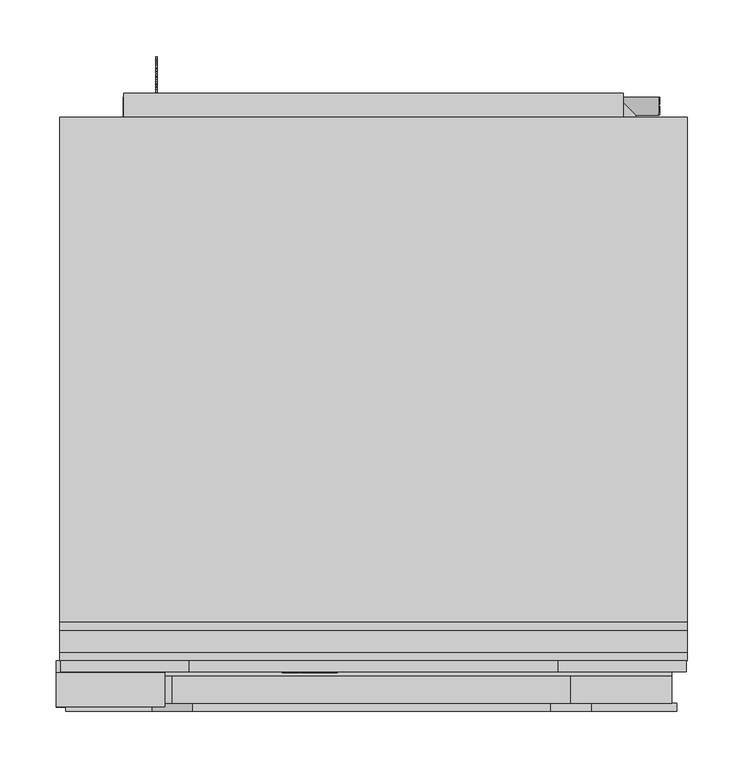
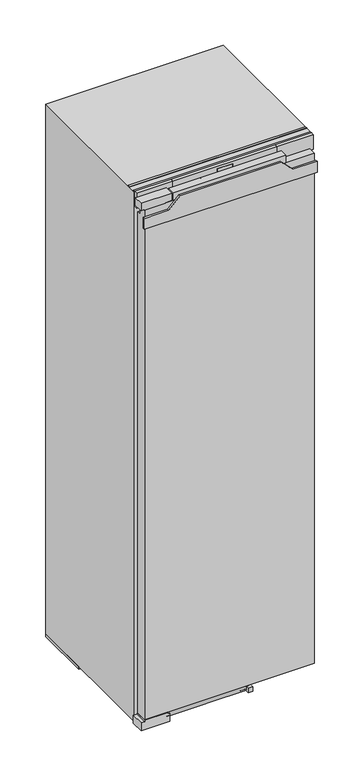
"""IFC4 building model written with IfcOpenShell, lengths in millimetres: proxy geometry, 11911910_USA_FNS7794E : 37779400_USA_11911910_FNS7794E."""

import ifcopenshell
import ifcopenshell.guid

model = None  # the IFC model being written
_history = None  # IfcOwnerHistory: only IFC2X3 demands one
_inside = {}  # id of a spatial element -> (the spatial element, [elements in it])
_under = {}  # id of a project, library or spatial element -> (it, [spatial elements below it])
_declared = {}  # id of a project -> (the project, [libraries it declares])
_typed = {}  # id of a type object -> (the type object, [elements of that type])
_made_of = {}  # id of a material, layer set ... -> (it, [elements and type objects made of it])


def new_model(schema):
    """Start an empty IFC model of exactly this schema.

    Asked for "IFC4X3", IfcOpenShell would pick the latest addendum, in which some entities
    have other attributes; the version numbers below select the first issue.
    IFC2X3 requires an IfcOwnerHistory on every rooted entity: one is made here for all.
    """
    global model, _history
    if schema == "IFC4X3":
        model = ifcopenshell.file(schema_version=(4, 3, 0, 0))
    else:
        model = ifcopenshell.file(schema=schema)
    _inside.clear()
    _under.clear()
    _declared.clear()
    _typed.clear()
    _made_of.clear()
    _history = None
    if model.schema == "IFC2X3":
        org = make("IfcOrganization", Name="unknown")
        user = make(
            "IfcPersonAndOrganization",
            ThePerson=make("IfcPerson", FamilyName="unknown"),
            TheOrganization=org,
        )
        app = make(
            "IfcApplication",
            ApplicationDeveloper=org,
            Version="unknown",
            ApplicationFullName="unknown",
            ApplicationIdentifier="unknown",
        )
        _history = make(
            "IfcOwnerHistory",
            OwningUser=user,
            OwningApplication=app,
            ChangeAction="ADDED",
            CreationDate=0,
        )
    return model


def make(cls, **values):
    """One entity of the class cls with the attributes given. An attribute that is None is left unset."""
    return model.create_entity(
        cls, **{name: value for name, value in values.items() if value is not None}
    )


def rooted(cls, **values):
    """An entity with a GlobalId (a new one), such as an element, a storey or a relation."""
    return make(cls, GlobalId=ifcopenshell.guid.new(), OwnerHistory=_history, **values)


def si_unit(unit_type, name, prefix=None):
    """IfcSIUnit, for example si_unit("LENGTHUNIT", "METRE", prefix="MILLI")."""
    return make("IfcSIUnit", UnitType=unit_type, Prefix=prefix, Name=name)


def assignment(units):
    """IfcUnitAssignment: the units of a project."""
    return None if units is None else make("IfcUnitAssignment", Units=units)


def point(xyz):
    """IfcCartesianPoint."""
    return None if xyz is None else make("IfcCartesianPoint", Coordinates=xyz)


def direction(xyz):
    """IfcDirection."""
    return None if xyz is None else make("IfcDirection", DirectionRatios=xyz)


def frame(location, z_axis=None, x_axis=None):
    """IfcAxis2Placement3D, a coordinate frame: its origin and axes. An axis left out is left unset."""
    return make(
        "IfcAxis2Placement3D",
        Location=point(location),
        Axis=direction(z_axis),
        RefDirection=direction(x_axis),
    )


def frame_2d(location, x_axis=None):
    """IfcAxis2Placement2D, a coordinate frame in the plane: its origin and x axis."""
    return make(
        "IfcAxis2Placement2D", Location=point(location), RefDirection=direction(x_axis)
    )


def origin():
    """The frame at (0, 0, 0) with its axes left unset."""
    return frame((0.0, 0.0, 0.0))


def origin_with_axes():
    """The frame at (0, 0, 0) with the z axis (0, 0, 1) and the x axis (1, 0, 0) written out."""
    return frame((0.0, 0.0, 0.0), z_axis=(0.0, 0.0, 1.0), x_axis=(1.0, 0.0, 0.0))


def place(relative_to, where):
    """IfcLocalPlacement: puts the frame where relative to a parent placement (None: the world)."""
    return make(
        "IfcLocalPlacement", PlacementRelTo=relative_to, RelativePlacement=where
    )


def context(
    kind, dimensions, precision=None, world=None, true_north=None, identifier=None
):
    """IfcGeometricRepresentationContext, for example the 3D "Model" context."""
    return make(
        "IfcGeometricRepresentationContext",
        ContextIdentifier=identifier,
        ContextType=kind,
        CoordinateSpaceDimension=dimensions,
        Precision=precision,
        WorldCoordinateSystem=world,
        TrueNorth=true_north,
    )


def project(units=None, contexts=None):
    """IfcProject with its units and contexts."""
    return rooted(
        "IfcProject",
        Name="project",
        RepresentationContexts=contexts,
        UnitsInContext=assignment(units),
    )


def spatial(cls, under=None, at=None, **own):
    """A site, building, storey or space (cls), placed at a placement, below another one or the project."""
    s = rooted(cls, ObjectPlacement=at, **own)
    if under is not None:
        _under.setdefault(under.id(), (under, []))[1].append(s)
    return s


def polyline(points):
    """IfcPolyline through the points."""
    return make("IfcPolyline", Points=[point(p) for p in points])


def circle_curve(where, radius):
    """IfcCircle in the frame where."""
    return make("IfcCircle", Position=where, Radius=radius)


def ellipse_curve(where, semi_axis1, semi_axis2):
    """IfcEllipse in the frame where."""
    return make(
        "IfcEllipse", Position=where, SemiAxis1=semi_axis1, SemiAxis2=semi_axis2
    )


def trimmed(basis, trim1, trim2, sense, master):
    """IfcTrimmedCurve: the piece of a basis curve between two trims."""
    return make(
        "IfcTrimmedCurve",
        BasisCurve=basis,
        Trim1=trim1,
        Trim2=trim2,
        SenseAgreement=sense,
        MasterRepresentation=master,
    )


def segment(curve, same_sense, transition):
    """IfcCompositeCurveSegment."""
    return make(
        "IfcCompositeCurveSegment",
        Transition=transition,
        SameSense=same_sense,
        ParentCurve=curve,
    )


def composite_curve(segments, self_intersect=None):
    """IfcCompositeCurve: segments joined end to end."""
    return make("IfcCompositeCurve", Segments=segments, SelfIntersect=self_intersect)


def outline(outer, holes=None, kind="AREA"):
    """IfcArbitraryClosedProfileDef: a profile drawn as a closed curve; with holes, ...WithVoids."""
    if holes is None:
        return make("IfcArbitraryClosedProfileDef", ProfileType=kind, OuterCurve=outer)
    return make(
        "IfcArbitraryProfileDefWithVoids",
        ProfileType=kind,
        OuterCurve=outer,
        InnerCurves=holes,
    )


def extrude(swept, where, along, depth):
    """IfcExtrudedAreaSolid: the profile swept, set in the frame where, extruded along a direction by depth."""
    return make(
        "IfcExtrudedAreaSolid",
        SweptArea=swept,
        Position=where,
        ExtrudedDirection=direction(along),
        Depth=depth,
    )


def faces_of(points, faces, orient=None, outer=None):
    """IfcFace entities. A face is a list of loops; a loop is a list of indices into points, from 0.

    orient and outer hold one flag for each loop. By default every Orientation is true, the
    first loop of a face is its IfcFaceOuterBound and the others are IfcFaceBound.
    """
    made = []
    for i, loops in enumerate(faces):
        bounds = []
        for j, loop in enumerate(loops):
            is_outer = j == 0 if outer is None else outer[i][j]
            bounds.append(
                make(
                    "IfcFaceOuterBound" if is_outer else "IfcFaceBound",
                    Bound=make("IfcPolyLoop", Polygon=[points[k] for k in loop]),
                    Orientation=True if orient is None else orient[i][j],
                )
            )
        made.append(make("IfcFace", Bounds=bounds))
    return made


def faceted_brep(points, faces, orient=None, outer=None, voids=None):
    """IfcFacetedBrep: a solid bounded by flat faces; with voids (closed shells), ...WithVoids."""
    shared = [point(p) for p in points]
    hull = make("IfcClosedShell", CfsFaces=faces_of(shared, faces, orient, outer))
    if voids is None:
        return make("IfcFacetedBrep", Outer=hull)
    return make(
        "IfcFacetedBrepWithVoids",
        Outer=hull,
        Voids=[
            make(cls, CfsFaces=faces_of(shared, fs, o, b)) for cls, fs, o, b in voids
        ],
    )


def shape(context_of_items, identifier, shape_type, items):
    """IfcShapeRepresentation: the items that make up one representation, for example the "Body"."""
    return make(
        "IfcShapeRepresentation",
        ContextOfItems=context_of_items,
        RepresentationIdentifier=identifier,
        RepresentationType=shape_type,
        Items=items,
    )


def source(mapping_origin, context_of_items, identifier, shape_type, items):
    """IfcRepresentationMap: a shape defined once, which mapped items show again and again."""
    return make(
        "IfcRepresentationMap",
        MappingOrigin=mapping_origin,
        MappedRepresentation=shape(context_of_items, identifier, shape_type, items),
    )


def transform(
    local_origin,
    x_axis=None,
    y_axis=None,
    z_axis=None,
    scale=None,
    scale2=None,
    scale3=None,
    uniform=True,
):
    """IfcCartesianTransformationOperator3D, or its non-uniform kind. x_axis, y_axis, z_axis: its Axis1, 2, 3."""
    if uniform:
        return make(
            "IfcCartesianTransformationOperator3D",
            Axis1=direction(x_axis),
            Axis2=direction(y_axis),
            LocalOrigin=point(local_origin),
            Scale=scale,
            Axis3=direction(z_axis),
        )
    return make(
        "IfcCartesianTransformationOperator3DnonUniform",
        Axis1=direction(x_axis),
        Axis2=direction(y_axis),
        LocalOrigin=point(local_origin),
        Scale=scale,
        Axis3=direction(z_axis),
        Scale2=scale2,
        Scale3=scale3,
    )


def mapped(mapping_source, mapping_target):
    """IfcMappedItem: shows the shape of a source again, moved by a transform."""
    return make(
        "IfcMappedItem", MappingSource=mapping_source, MappingTarget=mapping_target
    )


def made_of(thing, what):
    """Note that an element or type object is made of a material, layer set ...; save() writes the relation."""
    if what is not None:
        _made_of.setdefault(what.id(), (what, []))[1].append(thing)
    return thing


def element(
    cls,
    number,
    at=None,
    inside=None,
    cuts=None,
    type_object=None,
    material=None,
    context=None,
    identifier="Body",
    shape_type=None,
    held_by="IfcProductDefinitionShape",
    body=None,
    shapes=None,
    **own,
):
    """One element of the class cls, such as IfcWall. Its Tag is "e" and its number.

    at: its placement. inside: the storey or other place that contains it. cuts: it is an
    opening in that element (IfcRelVoidsElement). A single representation is given by context,
    identifier, shape_type and body (its items); several are given by shapes. held_by: the class
    of the entity that holds the representations. save() writes the other relations.
    """
    e = rooted(cls, Tag="e%d" % number, ObjectPlacement=at, **own)
    if body is not None:
        shapes = [shape(context, identifier, shape_type, body)]
    if shapes is not None:
        e.Representation = make(held_by, Representations=shapes)
    if inside is not None:
        _inside.setdefault(inside.id(), (inside, []))[1].append(e)
    if cuts is not None:
        rooted(
            "IfcRelVoidsElement", RelatingBuildingElement=cuts, RelatedOpeningElement=e
        )
    if type_object is not None:
        _typed.setdefault(type_object.id(), (type_object, []))[1].append(e)
    return made_of(e, material)


def aggregate(whole, parts):
    """IfcRelAggregates: a whole, such as a stair, and the parts it consists of."""
    return rooted("IfcRelAggregates", RelatingObject=whole, RelatedObjects=parts)


def save(model, path):
    """Write the relations noted so far, then the file.

    IfcRelAggregates (storeys below a building ...), IfcRelContainedInSpatialStructure (elements
    in a storey), IfcRelDefinesByType, IfcRelAssociatesMaterial and IfcRelDeclares: one each for
    every whole, place, type object, material and project.
    """
    for whole, parts in _under.values():
        aggregate(whole, parts)
    for where, things in _inside.values():
        rooted(
            "IfcRelContainedInSpatialStructure",
            RelatedElements=things,
            RelatingStructure=where,
        )
    for kind, things in _typed.values():
        rooted("IfcRelDefinesByType", RelatedObjects=things, RelatingType=kind)
    for what, things in _made_of.values():
        rooted("IfcRelAssociatesMaterial", RelatedObjects=things, RelatingMaterial=what)
    for by, libraries in _declared.values():
        rooted("IfcRelDeclares", RelatingContext=by, RelatedDefinitions=libraries)
    model.write(path)


def plane_surface(at):
    """IfcPlane: the flat surface through the origin of the frame at, square to its z axis."""
    return make("IfcPlane", Position=at)


def cylinder_surface(at, radius):
    """IfcCylindricalSurface: all points at the distance radius from the z axis of the frame at."""
    return make("IfcCylindricalSurface", Position=at, Radius=radius)


def revolved_surface(curve, axis_point, axis_direction):
    """IfcSurfaceOfRevolution: the curve turned about the line through axis_point along axis_direction."""
    return make(
        "IfcSurfaceOfRevolution",
        SweptCurve=make("IfcArbitraryOpenProfileDef", ProfileType="CURVE", Curve=curve),
        AxisPosition=make("IfcAxis1Placement", Location=point(axis_point), Axis=direction(axis_direction)),
    )


def extruded_surface(curve, direction_of_extrusion, depth):
    """IfcSurfaceOfLinearExtrusion: the curve pushed along a direction by depth."""
    return make(
        "IfcSurfaceOfLinearExtrusion",
        SweptCurve=make("IfcArbitraryOpenProfileDef", ProfileType="CURVE", Curve=curve),
        ExtrudedDirection=direction(direction_of_extrusion),
        Depth=depth,
    )


def advanced_brep(points, edges, surfaces, faces):
    """IfcAdvancedBrep: a solid bounded by faces that lie on surfaces and meet in shared edges.

    An edge is (start, end): straight between two places in points (the first is 0);
    or (start, end, curve); or (start, end, curve, False) where it runs against its curve.
    A face is (place in surfaces, loops), or (place, loops, False) where it looks against
    its surface's normal. A loop lists edges by number (the first is 1), with a minus sign
    where the edge is run from its end to its start. The first loop is the outer one.
    """
    corners = [point(p) for p in points]
    vertices = [make("IfcVertexPoint", VertexGeometry=c) for c in corners]
    made = []
    for start, end, *more in edges:
        made.append(
            make(
                "IfcEdgeCurve",
                EdgeStart=vertices[start],
                EdgeEnd=vertices[end],
                EdgeGeometry=more[0] if more else make("IfcPolyline", Points=[corners[start], corners[end]]),
                SameSense=more[1] if len(more) > 1 else True,
            )
        )
    hull = []
    for where, loops, *sense in faces:
        bounds = []
        for j, loop in enumerate(loops):
            ring = [make("IfcOrientedEdge", EdgeElement=made[abs(k) - 1], Orientation=k > 0) for k in loop]
            bounds.append(
                make(
                    "IfcFaceOuterBound" if j == 0 else "IfcFaceBound",
                    Bound=make("IfcEdgeLoop", EdgeList=ring),
                    Orientation=True,
                )
            )
        hull.append(make("IfcAdvancedFace", Bounds=bounds, FaceSurface=surfaces[where], SameSense=sense[0] if sense else True))
    return make("IfcAdvancedBrep", Outer=make("IfcClosedShell", CfsFaces=hull))


def specialty_equipment_5714de7c(model_context):
    return source(origin(), model_context, "Body", "SolidModel", [
        advanced_brep(
        [(-37.4941578, 34.0, 1743.708), (-37.4941578, 34.0, 1744.516), (-32.1421578, 34.0, 1744.516), (-41.4541578, 34.0, 1744.516), (-39.2541578, 34.0, 1741.812), (-32.2781578, 34.0, 1743.708), (-34.6941578, 34.0, 1743.708), (-36.5981578, 34.0, 1742.812), (-37.4941578, 34.0, 1745.54), (-37.4941578, 34.0, 1746.412), (-36.1261578, 34.0, 1746.412), (-36.1261578, 34.0, 1745.54), (-37.4941578, 35.0, 1743.708), (-36.5981578, 35.0, 1742.812), (-34.6941578, 35.0, 1743.708), (-32.2781578, 35.0, 1743.708), (-39.2541578, 35.0, 1741.812), (-41.4541578, 35.0, 1744.516), (-32.1421578, 35.0, 1744.516), (-37.4941578, 35.0, 1744.516), (-37.4941578, 35.0, 1745.54), (-36.1261578, 35.0, 1745.54), (-36.1261578, 35.0, 1746.412), (-37.4941578, 35.0, 1746.412)],
        [
            (0, 1),
            (1, 2),
            (2, 3, ellipse_curve(frame((-36.7981578, 34.0, 1744.516), z_axis=(0.0, -1.0, 0.0), x_axis=(-1.0, 0.0, 0.0)), 4.656, 3.848)),
            (3, 4, circle_curve(frame((-38.3581141, 34.0, 1744.788), z_axis=(0.0, -1.0, 0.0), x_axis=(0.0, 0.0, -1.0)), 3.1079688)),
            (4, 5, circle_curve(frame((-36.8913642, 34.0, 1746.9), z_axis=(0.0, -1.0, 0.0), x_axis=(0.0, 0.0, -1.0)), 5.6098607)),
            (5, 6),
            (6, 7, circle_curve(frame((-36.207099, 34.0, 1744.452), z_axis=(0.0, 1.0, 0.0), x_axis=(0.0, 0.0, -1.0)), 1.6859795)),
            (7, 0, circle_curve(frame((-36.5981578, 34.0, 1743.708), z_axis=(0.0, 1.0, 0.0), x_axis=(0.0, 0.0, -1.0)), 0.896)),
            (8, 9),
            (9, 10, circle_curve(frame((-36.8101578, 34.0, 1746.412), z_axis=(0.0, 1.0, 0.0), x_axis=(0.0, 0.0, -1.0)), 0.684)),
            (10, 11),
            (11, 8),
            (12, 13, circle_curve(frame((-36.5981578, 35.0, 1743.708), z_axis=(0.0, -1.0, 0.0), x_axis=(0.0, 0.0, -1.0)), 0.896)),
            (13, 14, circle_curve(frame((-36.207099, 35.0, 1744.452), z_axis=(0.0, -1.0, 0.0), x_axis=(0.0, 0.0, -1.0)), 1.6859795)),
            (14, 15),
            (15, 16, circle_curve(frame((-36.8913642, 35.0, 1746.9), z_axis=(0.0, 1.0, 0.0), x_axis=(0.0, 0.0, -1.0)), 5.6098607)),
            (16, 17, circle_curve(frame((-38.3581141, 35.0, 1744.788), z_axis=(0.0, 1.0, 0.0), x_axis=(0.0, 0.0, -1.0)), 3.1079688)),
            (17, 18, ellipse_curve(frame((-36.7981578, 35.0, 1744.516), z_axis=(0.0, 1.0, 0.0), x_axis=(-1.0, 0.0, 0.0)), 4.656, 3.848)),
            (18, 19),
            (19, 12),
            (20, 21),
            (21, 22),
            (22, 23, circle_curve(frame((-36.8101578, 35.0, 1746.412), z_axis=(0.0, -1.0, 0.0), x_axis=(0.0, 0.0, -1.0)), 0.684)),
            (23, 20),
            (0, 12),
            (19, 1),
            (18, 2),
            (5, 15),
            (14, 6),
            (17, 3),
            (13, 7),
            (16, 4),
            (8, 20),
            (23, 9),
            (22, 10),
            (21, 11),
        ],
        [
            plane_surface(frame((-37.4941578, 34.0, 1744.516), z_axis=(0.0, -1.0, 0.0), x_axis=(0.0, 0.0, 1.0))),
            plane_surface(frame((-37.4941578, 35.0, 1744.516), z_axis=(0.0, 1.0, 0.0), x_axis=(0.0, 0.0, -1.0))),
            plane_surface(frame((-37.4941578, 34.0, 1743.708), z_axis=(1.0, 0.0, 0.0), x_axis=(0.0, 1.0, 0.0))),
            plane_surface(frame((-37.4941578, 34.0, 1744.516), z_axis=(0.0, 0.0, -1.0), x_axis=(0.0, 1.0, 0.0))),
            plane_surface(frame((-32.2781578, 34.0, 1743.708), z_axis=(0.0, 0.0, 1.0), x_axis=(0.0, 1.0, 0.0))),
            extruded_surface(trimmed(ellipse_curve(frame((-36.7981578, 36.0, 1744.516), z_axis=(0.0, -1.0, 0.0), x_axis=(-1.0, 0.0, 0.0)), 4.656, 3.848), [point((-32.1421578, 36.0, 1744.516))], [point((-41.4541578, 36.0, 1744.516))], True, "CARTESIAN"), (0.0, -1.0, 0.0), 1.0),
            revolved_surface(polyline([(-36.207099, 35.0, 1742.7660205), (-36.207099, 34.0, 1742.7660205)]), (-36.207099, 35.0, 1744.452), (0.0, 1.0, 0.0)),
            revolved_surface(polyline([(-36.5981578, 35.0, 1742.8120000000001), (-36.5981578, 34.0, 1742.8120000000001)]), (-36.5981578, 35.0, 1743.708), (0.0, 1.0, 0.0)),
            cylinder_surface(frame((-38.3581141, 35.0, 1744.788), z_axis=(0.0, -1.0, 0.0), x_axis=(0.0, 0.0, -1.0)), 3.1079688),
            cylinder_surface(frame((-36.8913642, 35.0, 1746.9), z_axis=(0.0, -1.0, 0.0), x_axis=(0.0, 0.0, -1.0)), 5.6098607),
            plane_surface(frame((-37.4941578, 34.0, 1745.54), z_axis=(1.0, 0.0, 0.0), x_axis=(0.0, 1.0, 0.0))),
            revolved_surface(polyline([(-36.8101578, 35.0, 1745.728), (-36.8101578, 34.0, 1745.728)]), (-36.8101578, 35.0, 1746.412), (0.0, 1.0, 0.0)),
            plane_surface(frame((-36.1261578, 34.0, 1746.412), z_axis=(-1.0, 0.0, 0.0), x_axis=(0.0, 1.0, 0.0))),
            plane_surface(frame((-36.1261578, 34.0, 1745.54), z_axis=(0.0, 0.0, 1.0), x_axis=(0.0, 1.0, 0.0))),
        ],
        [
            (0, [[1, 2, 3, 4, 5, 6, 7, 8], [9, 10, 11, 12]]),
            (1, [[13, 14, 15, 16, 17, 18, 19, 20], [21, 22, 23, 24]]),
            (2, [[-1, 25, -20, 26]]),
            (3, [[-2, -26, -19, 27]]),
            (4, [[-6, 28, -15, 29]]),
            (5, [[-3, -27, -18, 30]]),
            (6, [[-7, -29, -14, 31]]),
            (7, [[-8, -31, -13, -25]]),
            (8, [[-4, -30, -17, 32]]),
            (9, [[-5, -32, -16, -28]]),
            (10, [[-9, 33, -24, 34]]),
            (11, [[-10, -34, -23, 35]]),
            (12, [[-11, -35, -22, 36]]),
            (13, [[-12, -36, -21, -33]]),
        ],
    ),
        advanced_brep(
        [(-54.1901578, 34.0, 1743.708), (-54.1901578, 34.0, 1744.516), (-48.8381578, 34.0, 1744.516), (-58.1501578, 34.0, 1744.516), (-55.9501578, 34.0, 1741.812), (-48.9741578, 34.0, 1743.708), (-51.3901578, 34.0, 1743.708), (-53.2941578, 34.0, 1742.812), (-54.1901578, 34.0, 1745.54), (-54.1901578, 34.0, 1746.412), (-52.8221578, 34.0, 1746.412), (-52.8221578, 34.0, 1745.54), (-54.1901578, 35.0, 1743.708), (-53.2941578, 35.0, 1742.812), (-51.3901578, 35.0, 1743.708), (-48.9741578, 35.0, 1743.708), (-55.9501578, 35.0, 1741.812), (-58.1501578, 35.0, 1744.516), (-48.8381578, 35.0, 1744.516), (-54.1901578, 35.0, 1744.516), (-54.1901578, 35.0, 1745.54), (-52.8221578, 35.0, 1745.54), (-52.8221578, 35.0, 1746.412), (-54.1901578, 35.0, 1746.412)],
        [
            (0, 1),
            (1, 2),
            (2, 3, ellipse_curve(frame((-53.4941578, 34.0, 1744.516), z_axis=(0.0, -1.0, 0.0), x_axis=(-1.0, 0.0, 0.0)), 4.656, 3.848)),
            (3, 4, circle_curve(frame((-55.0541141, 34.0, 1744.788), z_axis=(0.0, -1.0, 0.0), x_axis=(0.0, 0.0, -1.0)), 3.1079688)),
            (4, 5, circle_curve(frame((-53.5873642, 34.0, 1746.9), z_axis=(0.0, -1.0, 0.0), x_axis=(0.0, 0.0, -1.0)), 5.6098607)),
            (5, 6),
            (6, 7, circle_curve(frame((-52.903099, 34.0, 1744.452), z_axis=(0.0, 1.0, 0.0), x_axis=(0.0, 0.0, -1.0)), 1.6859795)),
            (7, 0, circle_curve(frame((-53.2941578, 34.0, 1743.708), z_axis=(0.0, 1.0, 0.0), x_axis=(0.0, 0.0, -1.0)), 0.896)),
            (8, 9),
            (9, 10, circle_curve(frame((-53.5061578, 34.0, 1746.412), z_axis=(0.0, 1.0, 0.0), x_axis=(0.0, 0.0, -1.0)), 0.684)),
            (10, 11),
            (11, 8),
            (12, 13, circle_curve(frame((-53.2941578, 35.0, 1743.708), z_axis=(0.0, -1.0, 0.0), x_axis=(0.0, 0.0, -1.0)), 0.896)),
            (13, 14, circle_curve(frame((-52.903099, 35.0, 1744.452), z_axis=(0.0, -1.0, 0.0), x_axis=(0.0, 0.0, -1.0)), 1.6859795)),
            (14, 15),
            (15, 16, circle_curve(frame((-53.5873642, 35.0, 1746.9), z_axis=(0.0, 1.0, 0.0), x_axis=(0.0, 0.0, -1.0)), 5.6098607)),
            (16, 17, circle_curve(frame((-55.0541141, 35.0, 1744.788), z_axis=(0.0, 1.0, 0.0), x_axis=(0.0, 0.0, -1.0)), 3.1079688)),
            (17, 18, ellipse_curve(frame((-53.4941578, 35.0, 1744.516), z_axis=(0.0, 1.0, 0.0), x_axis=(-1.0, 0.0, 0.0)), 4.656, 3.848)),
            (18, 19),
            (19, 12),
            (20, 21),
            (21, 22),
            (22, 23, circle_curve(frame((-53.5061578, 35.0, 1746.412), z_axis=(0.0, -1.0, 0.0), x_axis=(0.0, 0.0, -1.0)), 0.684)),
            (23, 20),
            (0, 12),
            (19, 1),
            (18, 2),
            (5, 15),
            (14, 6),
            (17, 3),
            (13, 7),
            (16, 4),
            (8, 20),
            (23, 9),
            (22, 10),
            (21, 11),
        ],
        [
            plane_surface(frame((-54.1901578, 34.0, 1744.516), z_axis=(0.0, -1.0, 0.0), x_axis=(0.0, 0.0, 1.0))),
            plane_surface(frame((-54.1901578, 35.0, 1744.516), z_axis=(0.0, 1.0, 0.0), x_axis=(0.0, 0.0, -1.0))),
            plane_surface(frame((-54.1901578, 34.0, 1743.708), z_axis=(1.0, 0.0, 0.0), x_axis=(0.0, 1.0, 0.0))),
            plane_surface(frame((-54.1901578, 34.0, 1744.516), z_axis=(0.0, 0.0, -1.0), x_axis=(0.0, 1.0, 0.0))),
            plane_surface(frame((-48.9741578, 34.0, 1743.708), z_axis=(0.0, 0.0, 1.0), x_axis=(0.0, 1.0, 0.0))),
            extruded_surface(trimmed(ellipse_curve(frame((-53.4941578, 36.0, 1744.516), z_axis=(0.0, -1.0, 0.0), x_axis=(-1.0, 0.0, 0.0)), 4.656, 3.848), [point((-48.8381578, 36.0, 1744.516))], [point((-58.1501578, 36.0, 1744.516))], True, "CARTESIAN"), (0.0, -1.0, 0.0), 1.0),
            revolved_surface(polyline([(-52.903099, 35.0, 1742.7660205), (-52.903099, 34.0, 1742.7660205)]), (-52.903099, 35.0, 1744.452), (0.0, 1.0, 0.0)),
            revolved_surface(polyline([(-53.2941578, 35.0, 1742.8120000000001), (-53.2941578, 34.0, 1742.8120000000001)]), (-53.2941578, 35.0, 1743.708), (0.0, 1.0, 0.0)),
            cylinder_surface(frame((-55.0541141, 35.0, 1744.788), z_axis=(0.0, -1.0, 0.0), x_axis=(0.0, 0.0, -1.0)), 3.1079688),
            cylinder_surface(frame((-53.5873642, 35.0, 1746.9), z_axis=(0.0, -1.0, 0.0), x_axis=(0.0, 0.0, -1.0)), 5.6098607),
            plane_surface(frame((-54.1901578, 34.0, 1745.54), z_axis=(1.0, 0.0, 0.0), x_axis=(0.0, 1.0, 0.0))),
            revolved_surface(polyline([(-53.5061578, 35.0, 1745.728), (-53.5061578, 34.0, 1745.728)]), (-53.5061578, 35.0, 1746.412), (0.0, 1.0, 0.0)),
            plane_surface(frame((-52.8221578, 34.0, 1746.412), z_axis=(-1.0, 0.0, 0.0), x_axis=(0.0, 1.0, 0.0))),
            plane_surface(frame((-52.8221578, 34.0, 1745.54), z_axis=(0.0, 0.0, 1.0), x_axis=(0.0, 1.0, 0.0))),
        ],
        [
            (0, [[1, 2, 3, 4, 5, 6, 7, 8], [9, 10, 11, 12]]),
            (1, [[13, 14, 15, 16, 17, 18, 19, 20], [21, 22, 23, 24]]),
            (2, [[-1, 25, -20, 26]]),
            (3, [[-2, -26, -19, 27]]),
            (4, [[-6, 28, -15, 29]]),
            (5, [[-3, -27, -18, 30]]),
            (6, [[-7, -29, -14, 31]]),
            (7, [[-8, -31, -13, -25]]),
            (8, [[-4, -30, -17, 32]]),
            (9, [[-5, -32, -16, -28]]),
            (10, [[-9, 33, -24, 34]]),
            (11, [[-10, -34, -23, 35]]),
            (12, [[-11, -35, -22, 36]]),
            (13, [[-12, -36, -21, -33]]),
        ],
    ),
        extrude(outline(polyline([(1749.34, -62.9341578), (1748.044, -62.3261578), (1749.308, -59.6141578), (1750.604, -60.2141578), (1749.34, -62.9341578)])), frame((0.0, 34.0, 0.0), z_axis=(0.0, 1.0, 0.0), x_axis=(0.0, 0.0, 1.0)), (0.0, 0.0, 1.0), 1.0),
        extrude(outline(polyline([(1747.868, -64.9101578), (1746.436, -64.9101578), (1746.436, -63.9581578), (1743.156, -63.9581578), (1743.156, -64.9101578), (1741.812, -64.9101578), (1741.812, -58.5981578), (1743.156, -58.5981578), (1743.156, -59.5261578), (1747.868, -59.5261578), (1747.868, -64.9101578)])), frame((0.0, 34.0, 0.0), z_axis=(0.0, 1.0, 0.0), x_axis=(0.0, 0.0, 1.0)), (0.0, 0.0, 1.0), 1.0),
        extrude(outline(polyline([(1748.508, -48.3901578), (1748.508, -47.4301578), (1743.156, -47.4301578), (1743.156, -48.3901578), (1741.812, -48.3901578), (1741.812, -41.9021578), (1743.156, -41.9021578), (1743.156, -42.8861578), (1749.812, -42.8861578), (1749.812, -48.3901578), (1748.508, -48.3901578)])), frame((0.0, 34.0, 0.0), z_axis=(0.0, 1.0, 0.0), x_axis=(0.0, 0.0, 1.0)), (0.0, 0.0, 1.0), 1.0),
        extrude(outline(polyline([(1748.508, -80.8541578), (1748.508, -79.8861578), (1743.156, -79.8861578), (1743.156, -80.8541578), (1741.812, -80.8541578), (1741.812, -77.3341578), (1743.156, -77.3341578), (1743.156, -78.2941578), (1746.5591247, -78.2941578), (1741.812, -74.7181578), (1746.6272223, -71.1261578), (1743.156, -71.1261578), (1743.156, -72.1101578), (1741.812, -72.1101578), (1741.812, -65.7261578), (1743.156, -65.7261578), (1743.156, -66.7421578), (1748.508, -66.7421578), (1748.508, -65.7261578), (1749.812, -65.7261578), (1749.812, -70.5981578), (1746.812, -72.9341578), (1749.812, -75.2781578), (1749.812, -80.8541578), (1748.508, -80.8541578)])), frame((0.0, 34.0, 0.0), z_axis=(0.0, 1.0, 0.0), x_axis=(0.0, 0.0, 1.0)), (0.0, 0.0, 1.0), 1.0),
        faceted_brep([(163.6458422, 35.0, 1770.0), (-163.3541578, 35.0, 1770.0), (-163.3541578, 35.0, 1721.0), (163.6458422, 35.0, 1721.0), (24.6458422, 35.0, 1763.0), (24.6458422, 35.0, 1727.0), (-24.3541578, 35.0, 1727.0), (-24.3541578, 35.0, 1763.0), (163.6458422, 45.0, 1770.0), (163.6458422, 45.0, 1721.0), (-163.3541578, 45.0, 1721.0), (-163.3541578, 45.0, 1770.0), (24.6458422, 36.0, 1763.0), (-24.3541578, 36.0, 1763.0), (-24.3541578, 36.0, 1727.0), (24.6458422, 36.0, 1727.0)], [[[0, 1, 2, 3], [4, 5, 6, 7]], [[8, 9, 10, 11]], [[0, 3, 9, 8]], [[3, 2, 10, 9]], [[2, 1, 11, 10]], [[1, 0, 8, 11]], [[12, 13, 14, 15]], [[12, 15, 5, 4]], [[15, 14, 6, 5]], [[14, 13, 7, 6]], [[13, 12, 4, 7]]]),
        extrude(outline(polyline([(163.6458422, 45.0), (277.6458422, 45.0), (277.6458422, 35.0), (163.6458422, 35.0), (163.6458422, 45.0)])), frame((0.0, 0.0, 1721.0), z_axis=(0.0, 0.0, 1.0), x_axis=(1.0, 0.0, 0.0)), (0.0, 0.0, 1.0), 49.0),
        extrude(outline(polyline([(-277.3541578, 45.0), (-163.3541578, 45.0), (-163.3541578, 35.0), (-277.3541578, 35.0), (-277.3541578, 45.0)])), frame((0.0, 0.0, 1721.0), z_axis=(0.0, 0.0, 1.0), x_axis=(1.0, 0.0, 0.0)), (0.0, 0.0, 1.0), 49.0),
        extrude(outline(polyline([(-24.3541578, 36.0), (24.6458422, 36.0), (24.6458422, 35.0), (-24.3541578, 35.0), (-24.3541578, 36.0)])), frame((0.0, 0.0, 1727.0), z_axis=(0.0, 0.0, 1.0), x_axis=(1.0, 0.0, 0.0)), (0.0, 0.0, 1.0), 36.0),
        extrude(outline(polyline([(1669.8, 269.1194317), (1705.8, 269.1194317), (1705.8, 193.1194317), (1741.8, 157.1194317), (1741.8, -160.8805683), (1705.8, -196.8805683), (1705.8, -272.8805683), (1669.8, -272.8805683), (1669.8, 269.1194317)])), frame((0.0, 0.0, 0.0), z_axis=(0.0, 1.0, 0.0), x_axis=(0.0, 0.0, 1.0)), (0.0, 0.0, 1.0), 7.0),
        extrude(outline(polyline([(57.1194317, 42.0), (72.1194317, 42.0), (72.1194317, 8.0), (57.1194317, 8.0), (57.1194317, 42.0)])), frame((0.0, 0.0, 9.8), z_axis=(0.0, 0.0, 1.0), x_axis=(1.0, 0.0, 0.0)), (0.0, 0.0, 1.0), 15.0),
        extrude(outline(composite_curve([segment(trimmed(circle_curve(frame_2d((63.6194317, 25.0)), 6.5), [point((70.1194317, 25.0))], [point((57.1194317, 25.0))], False, "CARTESIAN"), True, "CONTINUOUS"), segment(trimmed(circle_curve(frame_2d((63.6194317, 25.0)), 6.5), [point((57.1194317, 25.0))], [point((70.1194317, 25.0))], False, "CARTESIAN"), True, "CONTINUOUS")], self_intersect=False)), frame((0.0, 0.0, 24.8), z_axis=(0.0, 0.0, 1.0), x_axis=(1.0, 0.0, 0.0)), (0.0, 0.0, 1.0), 11.0),
        extrude(outline(polyline([(174.6194317, 7.0), (-178.3805683, 7.0), (-178.3805683, 31.0), (174.6194317, 31.0), (174.6194317, 7.0)])), frame((0.0, 0.0, 1729.8), z_axis=(0.0, 0.0, 1.0), x_axis=(1.0, 0.0, 0.0)), (0.0, 0.0, 1.0), 25.0),
        extrude(outline(polyline([(7.0, 35.8), (7.0, 1729.8), (31.0, 1729.8), (31.0, 1699.8), (45.0, 1699.8), (45.0, 35.8), (7.0, 35.8)])), frame((-268.3805683, 0.0, 0.0), z_axis=(1.0, 0.0, 0.0), x_axis=(0.0, 1.0, 0.0)), (0.0, 0.0, 1.0), 533.0),
        extrude(outline(polyline([(35.8, -197.3805683), (35.8, -270.3805683), (31.8, -270.3805683), (31.8, -281.3805683), (4.8, -281.3805683), (4.8, -191.3805683), (31.8, -191.3805683), (31.8, -197.3805683), (35.8, -197.3805683)])), frame((0.0, 4.0, 0.0), z_axis=(0.0, 1.0, 0.0), x_axis=(0.0, 0.0, 1.0)), (0.0, 0.0, 1.0), 41.0),
        extrude(outline(polyline([(1756.8, -281.3805683), (1732.8, -281.3805683), (1732.8, -271.3805683), (1729.8, -271.3805683), (1729.8, -205.3805683), (1732.8, -205.3805683), (1732.8, -185.3805683), (1756.8, -185.3805683), (1756.8, -281.3805683)])), frame((0.0, 4.0, 0.0), z_axis=(0.0, 1.0, 0.0), x_axis=(0.0, 0.0, 1.0)), (0.0, 0.0, 1.0), 30.0),
        extrude(outline(composite_curve([segment(trimmed(circle_curve(frame_2d((25.0, 18.8)), 6.0), [point((25.0, 24.8))], [point((25.0, 12.8))], False, "CARTESIAN"), True, "CONTINUOUS"), segment(trimmed(circle_curve(frame_2d((25.0, 18.8)), 6.0), [point((25.0, 12.8))], [point((25.0, 24.8))], False, "CARTESIAN"), True, "CONTINUOUS")], self_intersect=False)), frame((41.1194317, 0.0, 0.0), z_axis=(1.0, 0.0, 0.0), x_axis=(0.0, 1.0, 0.0)), (0.0, 0.0, 1.0), 16.0),
        extrude(outline(composite_curve([segment(trimmed(circle_curve(frame_2d((25.0, 18.8)), 9.0), [point((25.0, 27.8))], [point((25.0, 9.8))], False, "CARTESIAN"), True, "CONTINUOUS"), segment(trimmed(circle_curve(frame_2d((25.0, 18.8)), 9.0), [point((25.0, 9.8))], [point((25.0, 27.8))], False, "CARTESIAN"), True, "CONTINUOUS")], self_intersect=False)), frame((-191.3805683, 0.0, 0.0), z_axis=(1.0, 0.0, 0.0), x_axis=(0.0, 1.0, 0.0)), (0.0, 0.0, 1.0), 248.5),
        extrude(outline(polyline([(208.5, 487.0), (208.5, 309.0), (-208.5, 309.0), (-208.5, 487.0), (208.5, 487.0)])), frame((0.0, 0.0, 80.0), z_axis=(0.0, 0.0, 1.0), x_axis=(1.0, 0.0, 0.0)), (0.0, 0.0, 1.0), 217.0),
        extrude(outline(polyline([(23.0, -221.5), (23.0, 221.5), (131.0534782, 221.5), (131.0534782, 212.5555072), (151.6704825, 212.5555072), (151.6704825, 221.5), (1712.0, 221.5), (1712.0, -221.5), (62.0, -221.5), (62.0, -180.6240332), (39.0801416, -180.6240332), (39.0801416, -221.5), (23.0, -221.5)])), frame((0.0, 527.0, 0.0), z_axis=(0.0, 1.0, 0.0), x_axis=(0.0, 0.0, 1.0)), (0.0, 0.0, 1.0), 21.28),
        extrude(outline(polyline([(208.5, 87.0), (-208.5, 87.0), (-208.5, 487.0), (208.5, 487.0), (208.5, 87.0)])), frame((0.0, 0.0, 1587.0), z_axis=(0.0, 0.0, 1.0), x_axis=(1.0, 0.0, 0.0)), (0.0, 0.0, 1.0), 100.0),
        faceted_brep([(278.5, 527.0, 1768.0), (-278.5, 527.0, 1768.0), (-278.5, 45.0, 1768.0), (278.5, 45.0, 1768.0), (278.5, 527.0, 9.0), (278.5, 45.0, 9.0), (-278.5, 45.0, 9.0), (-278.5, 527.0, 9.0), (-208.5, 45.0, 1687.0), (208.5, 45.0, 1687.0), (208.5, 45.0, 80.0), (-208.5, 45.0, 80.0), (208.5, 487.0, 1687.0), (-208.5, 487.0, 1687.0), (-208.5, 487.0, 80.0), (208.5, 487.0, 80.0)], [[[0, 1, 2, 3]], [[4, 5, 6, 7]], [[1, 0, 4, 7]], [[2, 1, 7, 6]], [[3, 2, 6, 5], [8, 9, 10, 11]], [[0, 3, 5, 4]], [[12, 13, 14, 15]], [[13, 12, 9, 8]], [[14, 13, 8, 11]], [[15, 14, 11, 10]], [[12, 15, 10, 9]]]),
        extrude(outline(polyline([(278.5, 52.0), (278.5, 45.0), (-278.5, 45.0), (-278.5, 52.0), (278.5, 52.0)])), frame((0.0, 0.0, 1768.0), z_axis=(0.0, 0.0, 1.0), x_axis=(1.0, 0.0, 0.0)), (0.0, 0.0, 1.0), 2.0),
        extrude(outline(polyline([(278.5, 79.0), (278.5, 72.0), (-278.5, 72.0), (-278.5, 79.0), (278.5, 79.0)])), frame((0.0, 0.0, 1768.0), z_axis=(0.0, 0.0, 1.0), x_axis=(1.0, 0.0, 0.0)), (0.0, 0.0, 1.0), 2.0),
        extrude(outline(polyline([(529.6227397, 135.8394627), (529.6227397, 145.8850937), (536.843037, 145.8850937), (536.843037, 144.6293899), (530.8784436, 144.6293899), (530.8784436, 141.6470932), (536.529111, 141.6470932), (536.529111, 140.3913893), (530.8784436, 140.3913893), (530.8784436, 137.0951666), (537.0, 137.0951666), (537.0, 135.8394627), (529.6227397, 135.8394627)])), frame((253.2418947, 0.0, 0.0), z_axis=(1.0, 0.0, 0.0), x_axis=(0.0, 1.0, 0.0)), (0.0, 0.0, 1.0), 1.0),
        extrude(outline(polyline([(538.8835558, 135.8394627), (538.8835558, 145.8850937), (540.1392597, 145.8850937), (540.1392597, 137.0951666), (545.1620752, 137.0951666), (545.1620752, 135.8394627), (538.8835558, 135.8394627)])), frame((253.2418947, 0.0, 0.0), z_axis=(1.0, 0.0, 0.0), x_axis=(0.0, 1.0, 0.0)), (0.0, 0.0, 1.0), 1.0),
        advanced_brep(
        [(232.9638051, 527.0, 140.8394627), (217.0361949, 527.0, 140.8394627), (232.9638051, 529.0361949, 140.8394627), (217.0361949, 544.9638051, 140.8394627), (253.2418947, 529.0361949, 140.8394627), (253.2418947, 544.9638051, 140.8394627)],
        [
            (0, 1, circle_curve(frame((225.0, 527.0, 140.8394627), z_axis=(0.0, -1.0, 0.0), x_axis=(-1.0, 0.0, 0.0)), 7.9638051)),
            (1, 0, circle_curve(frame((225.0, 527.0, 140.8394627), z_axis=(0.0, -1.0, 0.0), x_axis=(-1.0, 0.0, 0.0)), 7.9638051)),
            (0, 2),
            (2, 3, ellipse_curve(frame((225.0, 537.0, 140.8394627), z_axis=(-0.70710678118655, -0.707106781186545, 0.0), x_axis=(0.707106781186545, -0.7071067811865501, 0.0)), 11.2625212, 7.9638051)),
            (3, 1),
            (3, 2, ellipse_curve(frame((225.0, 537.0, 140.8394627), z_axis=(-0.70710678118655, -0.707106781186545, 0.0), x_axis=(0.707106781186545, -0.7071067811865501, 0.0)), 11.2625212, 7.9638051)),
            (4, 5, circle_curve(frame((253.2418947, 537.0, 140.8394627), z_axis=(1.0, 0.0, 0.0), x_axis=(0.0, 1.0, 0.0)), 7.9638051)),
            (5, 4, circle_curve(frame((253.2418947, 537.0, 140.8394627), z_axis=(1.0, 0.0, 0.0), x_axis=(0.0, 1.0, 0.0)), 7.9638051)),
            (2, 4),
            (5, 3),
        ],
        [
            plane_surface(frame((225.0, 527.0, 2.0), z_axis=(0.0, -1.0, 0.0), x_axis=(0.0, 0.0, 1.0))),
            cylinder_surface(frame((225.0, 527.0, 140.8394627), z_axis=(0.0, -1.0, 0.0), x_axis=(-1.0, 0.0, 0.0)), 7.9638051),
            plane_surface(frame((253.2418947, 537.0, 2.0), z_axis=(1.0, 0.0, 0.0), x_axis=(0.0, 0.0, 1.0))),
            cylinder_surface(frame((225.0, 537.0, 140.8394627), z_axis=(-1.0, 0.0, 0.0), x_axis=(0.0, 1.0, 0.0)), 7.9638051),
        ],
        [
            (0, [[1, 2]]),
            (1, [[-1, 3, 4, 5]]),
            (1, [[-2, -5, 6, -3]]),
            (2, [[7, 8]]),
            (3, [[-4, 9, -8, 10]]),
            (3, [[-6, -10, -7, -9]]),
        ],
    ),
        extrude(outline(composite_curve([segment(trimmed(circle_curve(frame_2d((-226.5, 64.6852762)), 11.0852762), [point((-237.5852762, 64.6852762))], [point((-215.4147238, 64.6852762))], False, "CARTESIAN"), True, "CONTINUOUS"), segment(trimmed(circle_curve(frame_2d((-226.5, 64.6852762)), 11.0852762), [point((-215.4147238, 64.6852762))], [point((-237.5852762, 64.6852762))], False, "CARTESIAN"), True, "CONTINUOUS")], self_intersect=False)), origin_with_axes(), (0.0, 0.0, 1.0), 9.0),
        extrude(outline(composite_curve([segment(trimmed(circle_curve(frame_2d((226.5, 64.6852762)), 11.0852762), [point((215.4147238, 64.6852762))], [point((237.5852762, 64.6852762))], False, "CARTESIAN"), True, "CONTINUOUS"), segment(trimmed(circle_curve(frame_2d((226.5, 64.6852762)), 11.0852762), [point((237.5852762, 64.6852762))], [point((215.4147238, 64.6852762))], False, "CARTESIAN"), True, "CONTINUOUS")], self_intersect=False)), origin_with_axes(), (0.0, 0.0, 1.0), 9.0),
        extrude(outline(polyline([(-175.9047649, 94.122951), (-193.5137281, 345.9428573), (-168.5746269, 347.6867691), (-150.9656637, 95.8668628), (-175.9047649, 94.122951)])), frame((0.0, 0.0, 2.0), z_axis=(0.0, 0.0, 1.0), x_axis=(1.0, 0.0, 0.0)), (0.0, 0.0, 1.0), 7.0),
        extrude(outline(polyline([(175.9047649, 94.122951), (150.9656637, 95.8668628), (168.5777725, 347.7317536), (193.5168738, 345.9878417), (175.9047649, 94.122951)])), frame((0.0, 0.0, 2.0), z_axis=(0.0, 0.0, 1.0), x_axis=(1.0, 0.0, 0.0)), (0.0, 0.0, 1.0), 7.0),
        extrude(outline(polyline([(278.5, 347.71), (-278.5, 347.71), (-278.5, 527.0), (278.5, 527.0), (278.5, 347.71)])), origin_with_axes(), (0.0, 0.0, 1.0), 9.0),
        extrude(outline(polyline([(527.3594772, 46.0713582), (527.3594772, 56.1169892), (528.6151811, 56.1169892), (528.6151811, 51.1996332), (533.765529, 56.1169892), (535.5215524, 56.1169892), (531.1977127, 51.9869007), (535.6785154, 46.0713582), (534.1432212, 46.0713582), (530.3074383, 51.1383195), (528.6151811, 49.5245439), (528.6151811, 46.0713582), (527.3594772, 46.0713582)])), frame((-192.9919174, 0.0, 0.0), z_axis=(1.0, 0.0, 0.0), x_axis=(0.0, 1.0, 0.0)), (0.0, 0.0, 1.0), 1.0),
        extrude(outline(polyline([(538.41801, 46.0713582), (535.6785154, 56.1169892), (536.97346, 56.1169892), (538.5627102, 49.5147337), (539.0532196, 47.4766674), (539.5780646, 49.2792892), (541.5695324, 56.1169892), (543.4359204, 56.1169892), (544.8829229, 51.1603925), (545.9595909, 47.4766674), (546.4353849, 49.4558725), (548.0393504, 56.1169892), (549.3342951, 56.1169892), (546.5923479, 46.0713582), (545.2508049, 46.0713582), (542.8424041, 53.8214056), (542.5064052, 54.9029786), (542.1287131, 53.6006764), (539.9336838, 46.0713582), (538.41801, 46.0713582)])), frame((-192.9919174, 0.0, 0.0), z_axis=(1.0, 0.0, 0.0), x_axis=(0.0, 1.0, 0.0)), (0.0, 0.0, 1.0), 1.0),
        extrude(outline(polyline([(549.491258, 46.0713582), (552.3165918, 56.1169892), (553.4496683, 56.1169892), (550.6243346, 46.0713582), (549.491258, 46.0713582)])), frame((-192.9919174, 0.0, 0.0), z_axis=(1.0, 0.0, 0.0), x_axis=(0.0, 1.0, 0.0)), (0.0, 0.0, 1.0), 1.0),
        extrude(outline(polyline([(556.3117902, 46.0713582), (553.5722956, 56.1169892), (554.8672403, 56.1169892), (556.4564905, 49.5147337), (556.9469998, 47.4766674), (557.4718448, 49.2792892), (559.4633127, 56.1169892), (561.3297007, 56.1169892), (562.7767032, 51.1603925), (563.8533711, 47.4766674), (564.3291652, 49.4558725), (565.9331307, 56.1169892), (567.2280753, 56.1169892), (564.4861282, 46.0713582), (563.1445852, 46.0713582), (560.7361844, 53.8214056), (560.4001855, 54.9029786), (560.0224933, 53.6006764), (557.8274641, 46.0713582), (556.3117902, 46.0713582)])), frame((-192.9919174, 0.0, 0.0), z_axis=(1.0, 0.0, 0.0), x_axis=(0.0, 1.0, 0.0)), (0.0, 0.0, 1.0), 1.0),
        extrude(outline(polyline([(570.2814959, 46.0713582), (567.5420013, 56.1169892), (568.8369459, 56.1169892), (570.4261961, 49.5147337), (570.9167054, 47.4766674), (571.4415504, 49.2792892), (573.4330183, 56.1169892), (575.2994063, 56.1169892), (576.7464088, 51.1603925), (577.8230768, 47.4766674), (578.2988708, 49.4558725), (579.9028363, 56.1169892), (581.1977809, 56.1169892), (578.4558338, 46.0713582), (577.1142908, 46.0713582), (574.70589, 53.8214056), (574.3698911, 54.9029786), (573.9921989, 53.6006764), (571.7971697, 46.0713582), (570.2814959, 46.0713582)])), frame((-192.9919174, 0.0, 0.0), z_axis=(1.0, 0.0, 0.0), x_axis=(0.0, 1.0, 0.0)), (0.0, 0.0, 1.0), 1.0),
        advanced_brep(
        [(-205.9871753, 527.0, 51.0713582), (-222.004742, 527.0, 51.0713582), (-222.004742, 545.0087834, 51.0713582), (-205.9871753, 528.9912166, 51.0713582), (-192.9919174, 528.9912166, 51.0713582), (-192.9919174, 545.0087834, 51.0713582)],
        [
            (0, 1, circle_curve(frame((-213.9959587, 527.0, 51.0713582), z_axis=(0.0, -1.0, 0.0), x_axis=(-1.0, 0.0, 0.0)), 8.0087834)),
            (1, 0, circle_curve(frame((-213.9959587, 527.0, 51.0713582), z_axis=(0.0, -1.0, 0.0), x_axis=(-1.0, 0.0, 0.0)), 8.0087834)),
            (1, 2),
            (2, 3, ellipse_curve(frame((-213.9959587, 537.0, 51.0713582), z_axis=(-0.7071067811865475, -0.7071067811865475, 0.0), x_axis=(0.7071067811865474, -0.7071067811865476, 0.0)), 11.3261301, 8.0087834)),
            (3, 0),
            (3, 2, ellipse_curve(frame((-213.9959587, 537.0, 51.0713582), z_axis=(-0.7071067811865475, -0.7071067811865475, 0.0), x_axis=(0.7071067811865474, -0.7071067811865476, 0.0)), 11.3261301, 8.0087834)),
            (4, 5, circle_curve(frame((-192.9919174, 537.0, 51.0713582), z_axis=(1.0, 0.0, 0.0), x_axis=(0.0, 1.0, 0.0)), 8.0087834)),
            (5, 4, circle_curve(frame((-192.9919174, 537.0, 51.0713582), z_axis=(1.0, 0.0, 0.0), x_axis=(0.0, 1.0, 0.0)), 8.0087834)),
            (2, 5),
            (4, 3),
        ],
        [
            plane_surface(frame((-213.9959587, 527.0, 2.0), z_axis=(0.0, -1.0, 0.0), x_axis=(0.0, 0.0, 1.0))),
            cylinder_surface(frame((-213.9959587, 527.0, 51.0713582), z_axis=(0.0, -1.0, 0.0), x_axis=(-1.0, 0.0, 0.0)), 8.0087834),
            plane_surface(frame((-192.9919174, 537.0, 2.0), z_axis=(1.0, 0.0, 0.0), x_axis=(0.0, 0.0, 1.0))),
            cylinder_surface(frame((-213.9959587, 537.0, 51.0713582), z_axis=(-1.0, 0.0, 0.0), x_axis=(0.0, 1.0, 0.0)), 8.0087834),
        ],
        [
            (0, [[1, 2]]),
            (1, [[-2, 3, 4, 5]]),
            (1, [[-1, -5, 6, -3]]),
            (2, [[7, 8]]),
            (3, [[-4, 9, -7, 10]]),
            (3, [[-6, -10, -8, -9]]),
        ],
    ),
        extrude(outline(polyline([(208.5, 45.0), (-208.5, 45.0), (-208.5, 487.0), (208.5, 487.0), (208.5, 45.0)])), frame((0.0, 0.0, 467.0), z_axis=(0.0, 0.0, 1.0), x_axis=(1.0, 0.0, 0.0)), (0.0, 0.0, 1.0), 52.0),
    ])


if __name__ == "__main__":
    model = new_model("IFC4")
    model_context = context("Model", 3, world=origin())
    ifc_project = project(units=[si_unit("LENGTHUNIT", "METRE", prefix="MILLI")], contexts=[model_context])
    site = spatial("IfcSite", under=ifc_project)
    building = spatial("IfcBuilding", under=site)
    placement = place(None, origin())
    specialty_equipment_shape = specialty_equipment_5714de7c(model_context)
    element("IfcBuildingElementProxy", 1, Name="11911910_USA_FNS7794E : 37779400_USA_11911910_FNS7794E", ObjectType="11911910_USA_FNS7794E : 37779400_USA_11911910_FNS7794E", at=placement, inside=building, context=model_context, shape_type="MappedRepresentation", body=[
        mapped(specialty_equipment_shape, transform((0.0, 0.0, 0.0), x_axis=(1.0, 0.0, 0.0), y_axis=(0.0, 1.0, 0.0), z_axis=(0.0, 0.0, 1.0))),
    ])
    save(model, "model.ifc")
